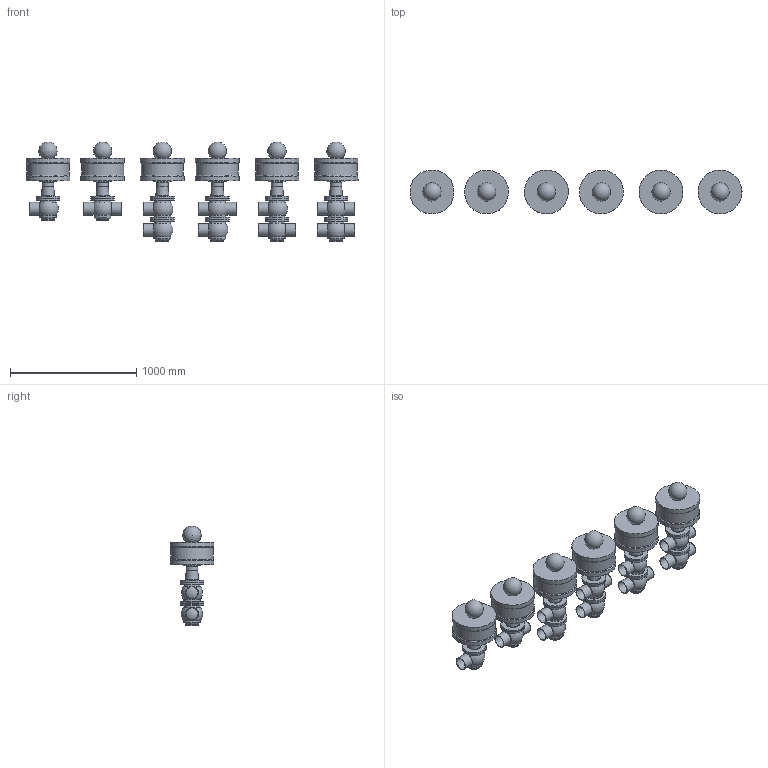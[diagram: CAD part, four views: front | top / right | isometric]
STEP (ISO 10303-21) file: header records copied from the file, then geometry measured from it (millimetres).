
FILE_DESCRIPTION(/* description */ (''),/* implementation_level */ '2;1');
FILE_NAME(/* name */ 'C:\Users\marz-m\Desktop\PDF\BBZQ 3D STEP\BBZQ-DN100-CIL.320.stp',/* time_stamp */ '2018-04-13T15:29:23+02:00',/* author */ ('marz-m'),/* organization */ (''),/* preprocessor_version */ 'ST-DEVELOPER v17',/* originating_system */ 'Autodesk Inventor 2018',/* authorisation */ '');
FILE_SCHEMA (('AUTOMOTIVE_DESIGN { 1 0 10303 214 3 1 1 }'));
Length unit declared in the file: millimetre
Products named in the file (8): BBZQ-DN100-CIL.320; assemblaggio dn100 per cil 207-360; CILINDRO 320; SAGOMA-GIOTTO-; COR-INF-L-BBZQ-DN100X3-SALD; CORPO-SUP-INF-BBZQ-L-DN1016X3-SALD; CORPO-SUP-BBZQ-T-DN1016X3-SALD; COR-INF-T-BBZQ-DN100X3-SALD
Assembly tree (28 placements, depth 2):
  BBZQ-DN100-CIL.320
    assemblaggio dn100 per cil 207-360  x6
    COR-INF-L-BBZQ-DN100X3-SALD  x3
    COR-INF-T-BBZQ-DN100X3-SALD  x3
    CORPO-SUP-INF-BBZQ-L-DN1016X3-SALD  x2
    CORPO-SUP-BBZQ-T-DN1016X3-SALD  x2
    CILINDRO 320  x6
    SAGOMA-GIOTTO-  x6
Bounding box: 2628.79 x 348 x 790.97 mm (x, y, z)
Volume: 144597459 mm3; surface area: 5865012.1 mm2
Topology: 28 solids, 28 shells, 368 faces, 964 edges, 716 vertices
Faces by surface type: cylinder 142, plane 115, torus 44, cone 36, sphere 31
Full cylindrical faces by diameter (mm): 25.4 x6, 68 x6, 69.8 x6, 70 x6, 77 x6, 92 x6, 95.6 x21, 101.6 x21, 133 x20, 141 x6, 189 x20, 334 x6, 348 x12
Entity records: 4252 total; most frequent: CARTESIAN_POINT 1013, DIRECTION 740, ORIENTED_EDGE 540, AXIS2_PLACEMENT_3D 346, EDGE_CURVE 270, CIRCLE 206, VERTEX_POINT 203, EDGE_LOOP 129
